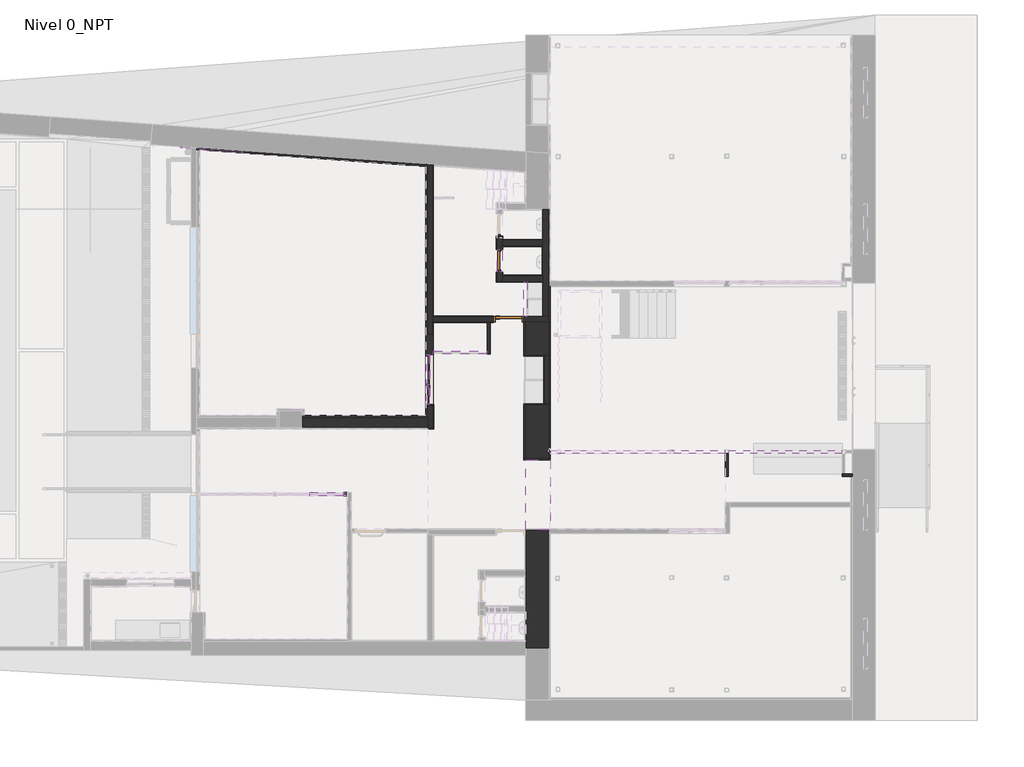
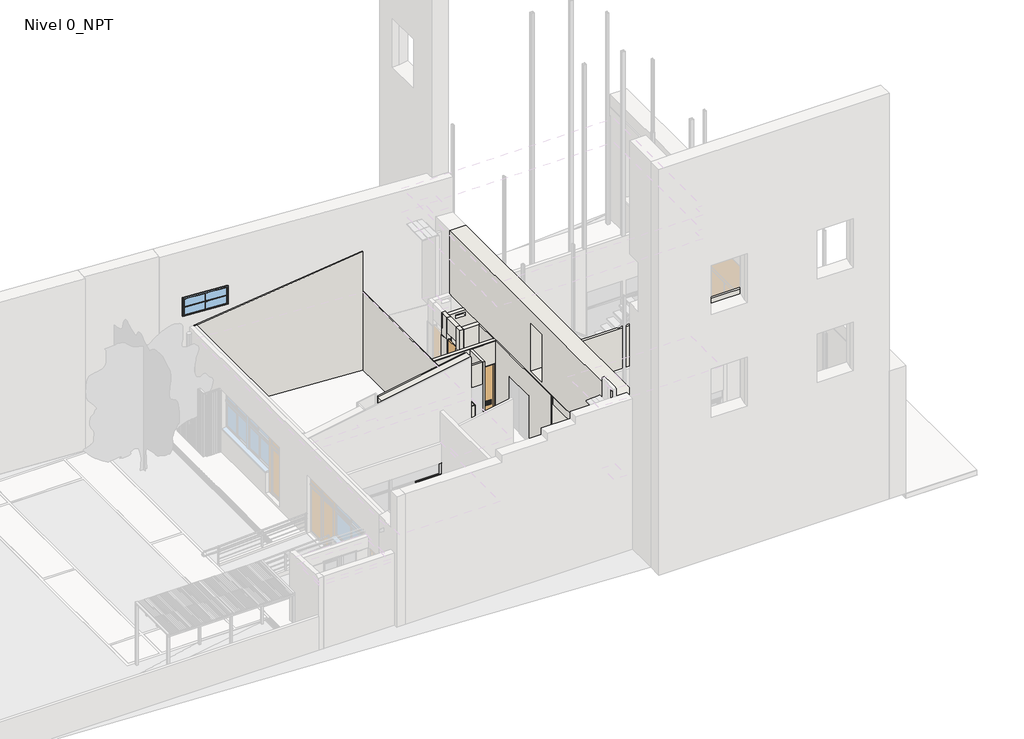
# One storey, part 3 of 10: 47 walls, 12 members, 3 plates, 2 doors, 1 window.
"""IFC4 building model written with IfcOpenShell, lengths in millimetres."""

from ifc_helpers import new_model, si_unit, frame, origin, origin_with_axes, place, context, project, spatial, polyline, outline, extrude, faceted_brep, transform, mapped, element, save
from components import door_e3acdb04, arq_pu_int_alu_muro_cortina_763f2388, montante_rectangular_10x10_306b7be8, montante_rectangular_10x10_453e8bf0, montante_rectangular_10x10_ddea4786, montante_rectangular_5x10_a7036ec4, montante_rectangular_5x10_1c76f6bb, montante_rectangular_5x10_c640f651, montante_rectangular_5x5_ec66791f, montante_rectangular_5x5_64893cda, plate_42b89756, plate_2efda8e6, plate_50fcb6a3, wall_5473c17b, window_182x81_cab7739a

model = new_model("IFC4")

# Units and contexts
model_context = context("Model", 3, world=origin())
ifc_project = project(units=[si_unit("LENGTHUNIT", "METRE", prefix="MILLI")], contexts=[model_context])

# Site, building, storey
site = spatial("IfcSite", under=ifc_project)
building = spatial("IfcBuilding", under=site)
storey = spatial("IfcBuildingStorey", under=building, Name="Nivel 0_NPT", Elevation=0.0)

# Doors
placement = place(None, origin())
door_shape = door_e3acdb04(model_context)
element("IfcDoor", 1, ObjectType="ARQ-PU-INT-90x210-Mad-C3 : ARQ-PU-INT-90x210-Mad", at=placement, inside=storey, context=model_context, shape_type="MappedRepresentation", body=[
    mapped(door_shape, transform((4854.8126262, 5388.6072273, 0.0), x_axis=(1.0, 0.0, 0.0), y_axis=(0.0, 1.0, 0.0), z_axis=(0.0, 0.0, 1.0))),
])
arq_pu_int_alu_muro_cortina_shape = arq_pu_int_alu_muro_cortina_763f2388(model_context)
element("IfcDoor", 2, ObjectType="ARQ-PU-INT-Alu (muro cortina) : ARQ-PU-IN-Alu-sshh", at=placement, inside=storey, context=model_context, shape_type="MappedRepresentation", body=[
    mapped(arq_pu_int_alu_muro_cortina_shape, transform((4589.9522431, 7113.4254013, 320.0), x_axis=(0.0, -1.0, 0.0), y_axis=(1.0, 0.0, 0.0), z_axis=(0.0, 0.0, 1.0))),
])

# Members
montante_rectangular_10x10_shape = montante_rectangular_10x10_306b7be8(model_context)
element("IfcMember", 3, ObjectType="Montante rectangular : 10x10", at=placement, inside=storey, context=model_context, shape_type="MappedRepresentation", body=[
    mapped(montante_rectangular_10x10_shape, transform((106.6524575, 244.0630157, 2125.0), x_axis=(1.0, 0.0, 0.0), y_axis=(0.0, -1.0, 0.0), z_axis=(0.0, 0.0, -1.0))),
])
montante_rectangular_10x10_2_shape = montante_rectangular_10x10_453e8bf0(model_context)
element("IfcMember", 4, ObjectType="Montante rectangular : 10x10", at=placement, inside=storey, context=model_context, shape_type="MappedRepresentation", body=[
    mapped(montante_rectangular_10x10_2_shape, transform((2485.3257651, 3348.6036572, 0.0), x_axis=(0.0, 1.0, 0.0), y_axis=(1.0, 0.0, 0.0), z_axis=(0.0, 0.0, -1.0))),
])
montante_rectangular_10x10_3_shape = montante_rectangular_10x10_ddea4786(model_context)
element("IfcMember", 5, ObjectType="Montante rectangular : 10x10", at=placement, inside=storey, context=model_context, shape_type="MappedRepresentation", body=[
    mapped(montante_rectangular_10x10_3_shape, transform((106.6524575, 244.0630157, 0.0), x_axis=(1.0, 0.0, 0.0), y_axis=(0.0, -1.0, 0.0), z_axis=(0.0, 0.0, -1.0))),
])
montante_rectangular_5x10_shape = montante_rectangular_5x10_a7036ec4(model_context)
element("IfcMember", 6, ObjectType="Montante rectangular : 5x10", at=placement, inside=storey, context=model_context, shape_type="MappedRepresentation", body=[
    mapped(montante_rectangular_5x10_shape, transform((6.6524575, 244.0630157, 2125.0), x_axis=(0.0, 0.0, 1.0), y_axis=(0.0, -1.0, 0.0), z_axis=(1.0, 0.0, 0.0))),
])
montante_rectangular_5x10_2_shape = montante_rectangular_5x10_1c76f6bb(model_context)
element("IfcMember", 7, ObjectType="Montante rectangular : 5x10", at=placement, inside=storey, context=model_context, shape_type="MappedRepresentation", body=[
    mapped(montante_rectangular_5x10_2_shape, transform((2485.3257651, 3348.6036572, 2125.0), x_axis=(0.0, 0.0, 1.0), y_axis=(1.0, 0.0, 0.0), z_axis=(0.0, 1.0, 0.0))),
])
montante_rectangular_5x10_3_shape = montante_rectangular_5x10_c640f651(model_context)
element("IfcMember", 8, ObjectType="Montante rectangular : 5x10", at=placement, inside=storey, context=model_context, shape_type="MappedRepresentation", body=[
    mapped(montante_rectangular_5x10_3_shape, transform((2485.3257651, 4348.6036572, 2125.0), x_axis=(0.0, 0.0, 1.0), y_axis=(1.0, 0.0, 0.0), z_axis=(0.0, 1.0, 0.0))),
])
montante_rectangular_5x5_shape = montante_rectangular_5x5_ec66791f(model_context)
element("IfcMember", 9, ObjectType="Montante rectangular : 5x5", at=placement, inside=storey, context=model_context, shape_type="MappedRepresentation", body=[
    mapped(montante_rectangular_5x5_shape, transform((4589.9522431, 7443.2435753, 0.0), x_axis=(0.0, 1.0, 0.0), y_axis=(1.0, 0.0, 0.0), z_axis=(0.0, 0.0, -1.0))),
])
element("IfcMember", 10, ObjectType="Montante rectangular : 5x5", at=placement, inside=storey, context=model_context, shape_type="MappedRepresentation", body=[
    mapped(montante_rectangular_5x5_shape, transform((4589.9522431, 6783.6072273, 320.0), x_axis=(0.0, -1.0, 0.0), y_axis=(1.0, 0.0, 0.0), z_axis=(0.0, 0.0, 1.0))),
])
element("IfcMember", 11, ObjectType="Montante rectangular : 5x5", at=placement, inside=storey, context=model_context, shape_type="MappedRepresentation", body=[
    mapped(montante_rectangular_5x5_shape, transform((4589.8126262, 7833.6072273, 320.0), x_axis=(0.0, -1.0, 0.0), y_axis=(1.0, 0.0, 0.0), z_axis=(0.0, 0.0, 1.0))),
])
montante_rectangular_5x5_2_shape = montante_rectangular_5x5_64893cda(model_context)
element("IfcMember", 12, ObjectType="Montante rectangular : 5x5", at=placement, inside=storey, context=model_context, shape_type="MappedRepresentation", body=[
    mapped(montante_rectangular_5x5_2_shape, transform((4589.9522431, 6783.6072273, 2100.0), x_axis=(0.0, -1.0, 0.0), y_axis=(1.0, 0.0, 0.0), z_axis=(0.0, 0.0, 1.0))),
])
element("IfcMember", 13, ObjectType="Montante rectangular : 5x5", at=placement, inside=storey, context=model_context, shape_type="MappedRepresentation", body=[
    mapped(montante_rectangular_5x5_2_shape, transform((4589.8126262, 7833.6072273, 2100.0), x_axis=(0.0, -1.0, 0.0), y_axis=(1.0, 0.0, 0.0), z_axis=(0.0, 0.0, 1.0))),
])
element("IfcMember", 14, ObjectType="Montante rectangular : 5x5", at=placement, inside=storey, context=model_context, shape_type="MappedRepresentation", body=[
    mapped(montante_rectangular_5x5_2_shape, transform((4589.9522431, 7443.2435753, 320.0), x_axis=(0.0, 1.0, 0.0), y_axis=(1.0, 0.0, 0.0), z_axis=(0.0, 0.0, -1.0))),
])

# Plates
plate_shape = plate_42b89756(model_context)
element("IfcPlate", 15, ObjectType="ARQ-PA-IN-Vidrio Fijo Laminado  : ARQ-PA-IN-Vidrio Fijo Laminado ", at=placement, inside=storey, context=model_context, shape_type="MappedRepresentation", body=[
    mapped(plate_shape, transform((2485.3257651, 3115.2198615, 0.0), x_axis=(0.0, 1.0, 0.0), y_axis=(-1.0, 0.0, 0.0), z_axis=(0.0, 0.0, 1.0))),
])
plate_2_shape = plate_2efda8e6(model_context)
element("IfcPlate", 16, ObjectType="ARQ-PA-IN-Vidrio Fijo : ARQ-PA-IN-Vidrio Fijo", at=placement, inside=storey, context=model_context, shape_type="MappedRepresentation", body=[
    mapped(plate_2_shape, transform((2485.3257651, 3615.2198615, 2150.0), x_axis=(0.0, 1.0, 0.0), y_axis=(-1.0, 0.0, 0.0), z_axis=(0.0, 0.0, 1.0))),
])
plate_3_shape = plate_50fcb6a3(model_context)
element("IfcPlate", 17, ObjectType="ARQ-PA-IN-AluVid-Puerta : ARQ-PA-IN-AluVid-Puerta", at=placement, inside=storey, context=model_context, shape_type="MappedRepresentation", body=[
    mapped(plate_3_shape, transform((2485.3257651, 3898.6036572, 0.0), x_axis=(0.0, 1.0, 0.0), y_axis=(-1.0, 0.0, 0.0), z_axis=(0.0, 0.0, 1.0))),
])

# Walls
element("IfcWall", 18, ObjectType="ARQ-MU-IN-17-Gen", at=placement, inside=storey, context=model_context, shape_type="Brep", body=[
    faceted_brep([(5864.2897792, 8623.6072273, 3060.0), (5864.2897792, 8623.6072273, 2100.0), (5864.2897792, 8623.6072273, 0.0), (5864.2897792, 8603.6072273, 0.0), (5864.2897792, 7734.2992014, 0.0), (5864.2897792, 7714.2992014, 0.0), (5864.2897792, 7554.2992014, 0.0), (5864.2897792, 6663.6072273, 0.0), (5864.2897792, 6503.6072273, 0.0), (5864.2897792, 6483.6072273, 0.0), (5864.2897792, 5343.6072273, 0.0), (5864.2897792, 5343.6072273, 3060.0), (5864.2897792, 6503.6072273, 3060.0), (5864.2897792, 6663.6072273, 3060.0), (5864.2897792, 7554.2992014, 3060.0), (5864.2897792, 7714.2992014, 3060.0), (6034.2897792, 8623.6072273, 0.0), (6034.2897792, 8623.6072273, 3060.0), (6034.2897792, 5343.6072273, 3060.0), (6034.2897792, 5343.6072273, 0.0)], [[[0, 1, 2, 3, 4, 5, 6, 7, 8, 9, 10, 11, 12, 13, 14, 15]], [[16, 17, 18, 19]], [[10, 9, 8, 7, 6, 5, 4, 3, 2, 16, 19]], [[11, 10, 19, 18]], [[0, 15, 14, 13, 12, 11, 18, 17]], [[0, 17, 16, 2, 1]]]),
])
element("IfcWall", 19, ObjectType="ARQ-MU-IN-68-Gen", at=placement, inside=storey, context=model_context, shape_type="Brep", body=[
    faceted_brep([(5354.2897792, -4296.3927727, -20.0), (5354.2897792, -4296.3927727, 5840.0), (5354.2897792, 8713.6072273, 5840.0), (5354.2897792, 8713.6072273, 3060.0), (5354.2897792, 8623.6072273, 3060.0), (5354.2897792, 5313.6072273, 3060.0), (5354.2897792, 5313.6072273, -20.0), (5354.2897792, 4333.6072273, -20.0), (5354.2897792, 4333.6072273, 2100.0), (5354.2897792, 2873.6072273, 2100.0), (5354.2897792, 2873.6072273, -20.0), (5354.2897792, 1293.6072273, -20.0), (5354.2897792, 1293.6072273, 3060.0), (5354.2897792, -806.4629444, 3060.0), (5354.2897792, -806.4629444, 2100.0), (5354.2897792, -956.4629444, 2100.0), (5354.2897792, -956.4629444, 0.0), (5354.2897792, -781.4629444, 0.0), (5354.2897792, -781.4629444, -20.0), (5354.2897792, 2037.6072273, 3210.0), (5354.2897792, 2837.6072273, 3210.0), (5354.2897792, 2837.6072273, 5310.0), (5354.2897792, 2037.6072273, 5310.0), (6034.2897792, -4296.3927727, 5840.0), (6034.2897792, -4296.3927727, -20.0), (6034.2897792, -4086.3927727, -20.0), (6034.2897792, -911.4629444, -20.0), (6034.2897792, -781.4629444, -20.0), (6034.2897792, -781.4629444, 0.0), (6034.2897792, -806.4629444, 0.0), (6034.2897792, -806.4629444, 3060.0), (6034.2897792, 1293.6072273, 3060.0), (6034.2897792, 1293.6072273, -20.0), (6034.2897792, 2873.6072273, -20.0), (6034.2897792, 2873.6072273, 2100.0), (6034.2897792, 2898.6072273, 2100.0), (6034.2897792, 4308.6072273, 2100.0), (6034.2897792, 4333.6072273, 2100.0), (6034.2897792, 4333.6072273, -20.0), (6034.2897792, 5313.6072273, -20.0), (6034.2897792, 5313.6072273, 0.0), (6034.2897792, 5313.6072273, 3060.0), (6034.2897792, 5343.6072273, 3060.0), (6034.2897792, 5463.6072273, 3060.0), (6034.2897792, 8623.6072273, 3060.0), (6034.2897792, 8713.6072273, 3060.0), (6034.2897792, 8713.6072273, 5840.0), (6034.2897792, 2037.6072273, 3210.0), (6034.2897792, 2037.6072273, 5310.0), (6034.2897792, 2837.6072273, 5310.0), (6034.2897792, 2837.6072273, 3210.0), (5354.8126262, -806.4629444, 0.0), (5354.8126262, -806.4629444, 2100.0), (5354.8126262, -956.4629444, 0.0), (5354.8126262, -956.4629444, 2100.0)], [[[0, 1, 2, 3, 4, 5, 6, 7, 8, 9, 10, 11, 12, 13, 14, 15, 16, 17, 18], [19, 20, 21, 22]], [[23, 24, 25, 26, 27, 28, 29, 30, 31, 32, 33, 34, 35, 36, 37, 38, 39, 40, 41, 42, 43, 44, 45, 46], [47, 48, 49, 50]], [[1, 0, 24, 23]], [[2, 1, 23, 46]], [[13, 12, 31, 30]], [[0, 18, 27, 26, 25, 24]], [[48, 47, 19, 22]], [[49, 48, 22, 21]], [[50, 49, 21, 20]], [[47, 50, 20, 19]], [[9, 8, 37, 36, 35, 34]], [[11, 10, 33, 32]], [[5, 4, 3, 45, 44, 43, 42, 41]], [[7, 6, 39, 38]], [[27, 18, 17, 28]], [[13, 30, 29, 51, 52, 14]], [[29, 28, 17, 16, 53, 51]], [[33, 10, 9, 34]], [[54, 53, 16, 15]], [[52, 54, 15, 14]], [[53, 54, 52, 51]], [[12, 11, 32, 31]], [[5, 41, 40, 39, 6]], [[7, 38, 37, 8]], [[2, 46, 45, 3]]]),
])
element("IfcWall", 20, ObjectType="ARQ-MU-IN-16-Gen", at=placement, inside=storey, context=model_context, shape_type="Brep", body=[
    faceted_brep([(5864.2897792, 7714.2992014, 0.0), (5844.2897792, 7714.2992014, 0.0), (4664.9522431, 7714.2992014, 0.0), (4664.9522431, 7714.2992014, 3060.0), (5864.2897792, 7714.2992014, 3060.0), (5864.2897792, 7714.2992014, 2100.0), (4954.2897792, 7714.2992014, 2950.0), (4954.2897792, 7714.2992014, 2800.0), (5347.2897792, 7714.2992014, 2800.0), (5347.2897792, 7714.2992014, 2950.0), (5864.2897792, 7554.2992014, 0.0), (5864.2897792, 7554.2992014, 3060.0), (4664.9522431, 7554.2992014, 3060.0), (4664.9522431, 7554.2992014, 0.0), (4954.2897792, 7554.2992014, 2950.0), (5347.2897792, 7554.2992014, 2950.0), (5347.2897792, 7554.2992014, 2800.0), (4954.2897792, 7554.2992014, 2800.0)], [[[0, 1, 2, 3, 4, 5], [6, 7, 8, 9]], [[10, 11, 12, 13], [14, 15, 16, 17]], [[0, 5, 4, 11, 10]], [[3, 2, 13, 12]], [[2, 1, 0, 10, 13]], [[4, 3, 12, 11]], [[7, 6, 14, 17]], [[8, 7, 17, 16]], [[9, 8, 16, 15]], [[6, 9, 15, 14]]]),
])
element("IfcWall", 21, ObjectType="ARQ-MU-IN-16-Gen", at=placement, inside=storey, context=model_context, shape_type="Brep", body=[
    faceted_brep([(5864.2897792, 6663.6072273, 0.0), (4664.8126262, 6663.6072273, 0.0), (4664.8126262, 6663.6072273, 3060.0), (5864.2897792, 6663.6072273, 3060.0), (5864.2897792, 6503.6072273, 0.0), (5864.2897792, 6503.6072273, 3060.0), (5394.8126262, 6503.6072273, 3060.0), (5304.8126262, 6503.6072273, 3060.0), (4664.8126262, 6503.6072273, 3060.0), (4664.8126262, 6503.6072273, 0.0)], [[[0, 1, 2, 3]], [[4, 5, 6, 7, 8, 9]], [[1, 0, 4, 9]], [[3, 2, 8, 7, 6, 5]], [[0, 3, 5, 4]], [[2, 1, 9, 8]]]),
])
element("IfcWall", 22, ObjectType="ARQ-MU-IN-12-Gen", at=placement, inside=storey, context=model_context, shape_type="SweptSolid", body=[
    extrude(outline(polyline([(2898.6072273, 0.0), (2898.6072273, 2100.0), (2886.1072273, 2100.0), (2886.1072273, 2900.0), (4321.1072273, 2900.0), (4321.1072273, 2100.0), (4308.6072273, 2100.0), (4308.6072273, 0.0), (2898.6072273, 0.0)])), frame((5914.2897792, 0.0, 0.0), z_axis=(1.0, 0.0, 0.0), x_axis=(0.0, 1.0, 0.0)), (0.0, 0.0, 1.0), 120.0),
])
element("IfcWall", 23, ObjectType="ARQ-MU-IN-15-Gen", at=placement, inside=storey, context=model_context, shape_type="Brep", body=[
    faceted_brep([(4664.9522431, 7443.2435753, 0.0), (4664.9522431, 7554.2992014, 0.0), (4664.9522431, 7714.2992014, 0.0), (4664.9522431, 7833.6072273, 0.0), (4664.9522431, 7833.6072273, 3060.0), (4664.9522431, 7714.2992014, 3060.0), (4664.9522431, 7554.2992014, 3060.0), (4664.9522431, 7443.2435753, 3060.0), (4664.9522431, 7443.2435753, 2400.0), (4514.9522431, 7443.2435753, 0.0), (4514.9522431, 7443.2435753, 2400.0), (4514.9522431, 7443.2435753, 3060.0), (4514.9522431, 7833.6072273, 3060.0), (4514.9522431, 7833.6072273, 0.0)], [[[0, 1, 2, 3, 4, 5, 6, 7, 8]], [[9, 10, 11, 12, 13]], [[3, 2, 1, 0, 9, 13]], [[4, 3, 13, 12]], [[7, 6, 5, 4, 12, 11]], [[0, 8, 7, 11, 10, 9]]]),
])
element("IfcWall", 24, ObjectType="ARQ-MU-IN-15-Gen", at=placement, inside=storey, context=model_context, shape_type="Brep", body=[
    faceted_brep([(4664.8126262, 6503.6072273, 0.0), (4664.8126262, 6663.6072273, 0.0), (4664.8126262, 6783.6072273, 0.0), (4664.8126262, 6783.6072273, 2400.0), (4664.8126262, 6783.6072273, 3060.0), (4664.8126262, 6663.6072273, 3060.0), (4664.8126262, 6503.6072273, 3060.0), (4514.8126262, 6503.6072273, 0.0), (4514.8126262, 6503.6072273, 3060.0), (4514.8126262, 6783.6072273, 3060.0), (4514.8126262, 6783.6072273, 2400.0), (4514.8126262, 6783.6072273, 0.0)], [[[0, 1, 2, 3, 4, 5, 6]], [[7, 8, 9, 10, 11]], [[2, 1, 0, 7, 11]], [[4, 3, 2, 11, 10, 9]], [[6, 5, 4, 9, 8]], [[0, 6, 8, 7]]]),
])
element("IfcWall", 25, ObjectType="ARQ-MU-IN-15-Gen", at=placement, inside=storey, context=model_context, shape_type="Brep", body=[
    faceted_brep([(2624.8126262, 2204.5844917, -20.0), (2624.8126262, 2832.5360658, -20.0), (2624.8126262, 2832.5360658, 3060.0), (2624.8126262, 2204.5844917, 3060.0), (2474.8126262, 2204.5844917, -20.0), (2474.8126262, 2204.5844917, 3060.0), (2474.8126262, 2832.5360658, 3060.0), (2474.8126262, 2832.5360658, -20.0), (2474.8126262, 2504.5844917, -20.0)], [[[0, 1, 2, 3]], [[4, 5, 6, 7, 8]], [[2, 1, 7, 6]], [[0, 3, 5, 4]], [[1, 0, 4, 8, 7]], [[3, 2, 6, 5]]]),
])
element("IfcWall", 26, ObjectType="ARQ-MU-IN-9-Ye-T2", at=placement, inside=storey, context=model_context, shape_type="SweptSolid", body=[
    extrude(outline(polyline([(-1.3913714, 2100.0), (-1.3913714, 4910.0), (1434.6072273, 4910.0), (1434.6072273, -20.0), (762.2485055, -20.0), (762.2485055, 2100.0), (-1.3913714, 2100.0)])), frame((11223.8493091, 0.0, 0.0), z_axis=(1.0, 0.0, 0.0), x_axis=(0.0, 1.0, 0.0)), (0.0, 0.0, 1.0), 90.0),
])
element("IfcWall", 27, ObjectType="ARQ-MU-IN-8-Ye-T3", at=placement, inside=storey, context=model_context, shape_type="Brep", body=[
    faceted_brep([(14664.854766, 762.2485055, -20.0), (14914.8126262, 762.2485055, -20.0), (14964.8126262, 762.2485055, -20.0), (14964.8126262, 762.2485055, 4910.0), (14914.8126262, 762.2485055, 4910.0), (14664.854766, 762.2485055, 4910.0), (14664.854766, 842.2485055, -20.0), (14664.854766, 842.2485055, 4910.0), (14744.854766, 842.2485055, 4910.0), (14964.8126262, 842.2485055, 4910.0), (14964.8126262, 842.2485055, -20.0), (14744.854766, 842.2485055, -20.0)], [[[0, 1, 2, 3, 4, 5]], [[6, 7, 8, 9, 10, 11]], [[2, 1, 0, 6, 11, 10]], [[5, 4, 3, 9, 8, 7]], [[0, 5, 7, 6]], [[3, 2, 10, 9]]]),
])
element("IfcWall", 28, ObjectType="ARQ-MU-IN-15-Gen", at=placement, inside=storey, context=model_context, shape_type="Brep", body=[
    faceted_brep([(2617.4067247, 4934.5844917, 3060.0), (2617.4067247, 4934.5844917, -20.0), (2617.4067247, 9923.5663252, -20.0), (2617.4067247, 9923.5663252, 3060.0), (2617.4067247, 5463.6072273, 3060.0), (2617.4067247, 5313.6072273, 3060.0), (2467.4067247, 4934.5844917, -20.0), (2467.4067247, 4934.5844917, 3060.0), (2467.4067247, 9934.5471134, 3060.0), (2467.4067247, 9934.5471134, -20.0)], [[[0, 1, 2, 3, 4, 5]], [[6, 7, 8, 9]], [[2, 1, 6, 9]], [[0, 5, 4, 3, 8, 7]], [[3, 2, 9, 8]], [[0, 7, 6, 1]]]),
])
element("IfcWall", 29, ObjectType="ARQ-MU-IN-9-Ye-T2", at=placement, inside=storey, context=model_context, shape_type="Brep", body=[
    faceted_brep([(4227.4067247, 5288.6072273, -20.0), (4227.4067247, 4371.6072273, -20.0), (4227.4067247, 4371.6072273, 2100.0), (4227.4067247, 4371.6072273, 3060.0), (4227.4067247, 4461.6072273, 3060.0), (4227.4067247, 5288.6072273, 3060.0), (4317.4067247, 5288.6072273, -20.0), (4317.4067247, 5288.6072273, 3060.0), (4317.4067247, 4371.6072273, 3060.0), (4317.4067247, 4371.6072273, -20.0)], [[[0, 1, 2, 3, 4, 5]], [[6, 7, 8, 9]], [[1, 0, 6, 9]], [[5, 4, 3, 8, 7]], [[0, 5, 7, 6]], [[3, 2, 1, 9, 8]]]),
])
element("IfcWall", 30, ObjectType="ARQ-MU-IN-22-Ye-T5", at=placement, inside=storey, context=model_context, shape_type="Brep", body=[
    faceted_brep([(2417.4067247, 4934.5844917, -20.0), (2417.4067247, 2882.5360658, -20.0), (2417.4067247, 2882.5360658, 0.0), (2417.4067247, 4348.6036572, 0.0), (2417.4067247, 4348.6036572, 2600.0), (2417.4067247, 2882.5360658, 2600.0), (2417.4067247, 2882.5360658, 3060.0), (2417.4067247, 4934.5844917, 3060.0), (2637.4067247, 2882.5360658, -20.0), (2637.4067247, 4934.5844917, -20.0), (2637.4067247, 4934.5844917, 3060.0), (2637.4067247, 4461.6072273, 3060.0), (2637.4067247, 4371.6072273, 3060.0), (2637.4067247, 2882.5360658, 3060.0), (2637.4067247, 2882.5360658, 2600.0), (2637.4067247, 4348.6036572, 2600.0), (2637.4067247, 4348.6036572, 0.0), (2637.4067247, 2882.5360658, 0.0), (2467.4067247, 4934.5844917, -20.0), (2617.4067247, 4934.5844917, -20.0), (2624.8126262, 2882.5360658, -20.0), (2467.4067247, 2882.5360658, 3060.0), (2624.8126262, 2882.5360658, 3060.0), (2617.4067247, 4934.5844917, 3060.0), (2467.4067247, 4934.5844917, 3060.0)], [[[0, 1, 2, 3, 4, 5, 6, 7]], [[8, 9, 10, 11, 12, 13, 14, 15, 16, 17]], [[1, 0, 18, 19, 9, 8, 20]], [[7, 6, 21, 22, 13, 12, 11, 10, 23, 24]], [[4, 15, 14, 5]], [[3, 16, 15, 4]], [[16, 3, 2, 17]], [[1, 20, 8, 17, 2]], [[6, 5, 14, 13, 22, 21]], [[0, 7, 24, 23, 10, 9, 19, 18]]]),
])
element("IfcWall", 31, ObjectType="ARQ-RE-IN-5-Ye-M2", at=placement, inside=storey, context=model_context, shape_type="Brep", body=[
    faceted_brep([(2467.4067247, 2554.5844917, -20.0), (2467.4067247, 2832.5360658, -20.0), (2467.4067247, 2832.5360658, 3060.0), (2467.4067247, 4934.5844917, 3060.0), (2467.4067247, 4934.5844917, -20.0), (2467.4067247, 9934.5471134, -20.0), (2467.4067247, 9934.5471134, 3450.0), (2467.4067247, 2554.5844917, 3450.0), (2417.4067247, 2832.5360658, -20.0), (2417.4067247, 2554.5844917, -20.0), (2417.4067247, 2554.5844917, 3450.0), (2417.4067247, 9938.2073761, 3450.0), (2417.4067247, 9938.2073761, -20.0), (2417.4067247, 9888.0735799, -20.0), (2417.4067247, 4934.5844917, -20.0), (2417.4067247, 4934.5844917, 3060.0), (2417.4067247, 2882.5360658, 3060.0), (2417.4067247, 2832.5360658, 3060.0)], [[[0, 1, 2, 3, 4, 5, 6, 7]], [[8, 9, 10, 11, 12, 13, 14, 15, 16, 17]], [[6, 5, 12, 11]], [[0, 7, 10, 9]], [[1, 0, 9, 8]], [[7, 6, 11, 10]], [[3, 2, 17, 16, 15]], [[5, 4, 14, 13, 12]], [[2, 1, 8, 17]], [[3, 15, 14, 4]]]),
])
element("IfcWall", 32, ObjectType="ARQ-RE-IN-5-Ye-M2", at=placement, inside=storey, context=model_context, shape_type="Brep", body=[
    faceted_brep([(2417.4067247, 9938.2073761, -20.0), (-4335.1873738, 10432.532743, -20.0), (-4335.1873738, 10432.532743, 4011.0), (2417.4067247, 9938.2073761, 5226.4669377), (2417.4067247, 9938.2073761, 3450.0), (2417.4067247, 9888.0735799, -20.0), (2417.4067247, 9888.0735799, 5226.4669377), (-4235.1873738, 10375.0784214, 4029.0), (-4335.1873738, 10382.3989468, 4011.0), (-4335.1873738, 10382.3989468, -20.0), (-4235.1873738, 10375.0784214, -20.0)], [[[0, 1, 2, 3, 4]], [[5, 6, 7, 8, 9, 10]], [[1, 0, 5, 10, 9]], [[0, 4, 3, 6, 5]], [[2, 1, 9, 8]], [[3, 2, 8, 7, 6]]]),
])
element("IfcWall", 33, ObjectType="ARQ-RE-IN-5-Ye-M2", at=placement, inside=storey, context=model_context, shape_type="Brep", body=[
    faceted_brep([(2624.8126262, 2882.5360658, -20.0), (2417.4067247, 2882.5360658, -20.0), (2417.4067247, 2882.5360658, 0.0), (2417.4067247, 2882.5360658, 2600.0), (2417.4067247, 2882.5360658, 3060.0), (2624.8126262, 2882.5360658, 3060.0), (2624.8126262, 2832.5360658, -20.0), (2624.8126262, 2832.5360658, 3060.0), (2474.8126262, 2832.5360658, 3060.0), (2467.4067247, 2832.5360658, 3060.0), (2417.4067247, 2832.5360658, 3060.0), (2417.4067247, 2832.5360658, -20.0), (2467.4067247, 2832.5360658, -20.0), (2474.8126262, 2832.5360658, -20.0)], [[[0, 1, 2, 3, 4, 5]], [[6, 7, 8, 9, 10, 11, 12, 13]], [[1, 0, 6, 13, 12, 11]], [[5, 4, 10, 9, 8, 7]], [[0, 5, 7, 6]], [[4, 3, 2, 1, 11, 10]]]),
])
element("IfcWall", 34, ObjectType="ARQ-RE-IN-5-Ye-M2", at=placement, inside=storey, context=model_context, shape_type="Brep", body=[
    faceted_brep([(2467.4067247, 2554.5844917, -20.0), (2417.4067247, 2554.5844917, -20.0), (-1165.1747062, 2554.5844917, -20.0), (-1215.1747062, 2554.5844917, -20.0), (-1215.1747062, 2554.5844917, 4572.6022802), (-1165.1747062, 2554.5844917, 4581.6022802), (2424.8126262, 2554.5844917, 5227.8), (2424.8126262, 2554.5844917, 3462.0), (2467.4067247, 2554.5844917, 3462.0), (2467.4067247, 2554.5844917, 3450.0), (-1215.1747062, 2504.5844917, -20.0), (2467.4067247, 2504.5844917, -20.0), (2467.4067247, 2504.5844917, 3462.0), (2424.8126262, 2504.5844917, 3462.0), (2424.8126262, 2504.5844917, 5227.8), (-1215.1747062, 2504.5844917, 4572.6022802)], [[[0, 1, 2, 3, 4, 5, 6, 7, 8, 9]], [[10, 11, 12, 13, 14, 15]], [[3, 2, 1, 0, 11, 10]], [[4, 15, 14, 6, 5]], [[13, 7, 6, 14]], [[7, 13, 12, 8]], [[4, 3, 10, 15]], [[11, 0, 9, 8, 12]]]),
])
element("IfcWall", 35, ObjectType="ARQ-RE-IN-5-Ye-M2", at=placement, inside=storey, context=model_context, shape_type="Brep", body=[
    faceted_brep([(5304.2897792, 5313.6072273, -20.0), (5304.2897792, 4308.6072273, -20.0), (5304.2897792, 4308.6072273, 2100.0), (5304.2897792, 2898.6072273, 2100.0), (5304.2897792, 2898.6072273, -20.0), (5304.2897792, 1293.6072273, -20.0), (5304.2897792, 1293.6072273, 3060.0), (5304.2897792, 5288.6072273, 3060.0), (5304.2897792, 5313.6072273, 3060.0), (5304.2897792, 5313.6072273, 2100.0), (5354.2897792, 5313.6072273, -20.0), (5354.2897792, 5313.6072273, 3060.0), (5354.2897792, 1293.6072273, 3060.0), (5354.2897792, 1293.6072273, -20.0), (5354.2897792, 2873.6072273, -20.0), (5354.2897792, 2898.6072273, -20.0), (5354.2897792, 2898.6072273, 2100.0), (5354.2897792, 4308.6072273, 2100.0), (5354.2897792, 4308.6072273, -20.0), (5354.2897792, 4333.6072273, -20.0)], [[[0, 1, 2, 3, 4, 5, 6, 7, 8, 9]], [[10, 11, 12, 13, 14, 15, 16, 17, 18, 19]], [[0, 9, 8, 11, 10]], [[1, 0, 10, 19, 18]], [[8, 7, 6, 12, 11]], [[3, 2, 17, 16]], [[5, 4, 15, 14, 13]], [[6, 5, 13, 12]], [[4, 3, 16, 15]], [[2, 1, 18, 17]]]),
])
element("IfcWall", 36, ObjectType="ARQ-RE-IN-5-Ye-M2", at=placement, inside=storey, context=model_context, shape_type="Brep", body=[
    faceted_brep([(5304.2897792, 1243.6072273, -20.0), (6034.2897792, 1243.6072273, -20.0), (6034.2897792, 1243.6072273, 3060.0), (5304.2897792, 1243.6072273, 3060.0), (5304.2897792, 1293.6072273, -20.0), (5304.2897792, 1293.6072273, 3060.0), (5354.2897792, 1293.6072273, 3060.0), (6034.2897792, 1293.6072273, 3060.0), (6034.2897792, 1293.6072273, -20.0), (5354.2897792, 1293.6072273, -20.0)], [[[0, 1, 2, 3]], [[4, 5, 6, 7, 8, 9]], [[2, 1, 8, 7]], [[1, 0, 4, 9, 8]], [[3, 2, 7, 6, 5]], [[0, 3, 5, 4]]]),
])
element("IfcWall", 37, ObjectType="ARQ-RE-IN-5-Ye-M2", at=placement, inside=storey, context=model_context, shape_type="Brep", body=[
    faceted_brep([(6084.2897792, -781.4629444, 3060.0), (6084.2897792, 1243.6072273, 3060.0), (6084.2897792, 1243.6072273, -20.0), (6084.2897792, 6355.6072273, -20.0), (6084.2897792, 6355.6072273, 4910.0), (6084.2897792, 2837.6072273, 4910.0), (6084.2897792, 2837.6072273, 3210.0), (6084.2897792, 2037.6072273, 3210.0), (6084.2897792, 2037.6072273, 4910.0), (6084.2897792, 1529.5940615, 4910.0), (6084.2897792, 1439.5940615, 4910.0), (6084.2897792, -781.4629444, 4910.0), (6034.2897792, -781.4629444, 3060.0), (6034.2897792, -781.4629444, 4910.0), (6034.2897792, 2037.6072273, 4910.0), (6034.2897792, 2037.6072273, 3210.0), (6034.2897792, 2837.6072273, 3210.0), (6034.2897792, 2837.6072273, 4910.0), (6034.2897792, 6355.6072273, 4910.0), (6034.2897792, 6355.6072273, -20.0), (6034.2897792, 1293.6072273, -20.0), (6034.2897792, 1243.6072273, -20.0), (6034.2897792, 1243.6072273, 3060.0)], [[[0, 1, 2, 3, 4, 5, 6, 7, 8, 9, 10, 11]], [[12, 13, 14, 15, 16, 17, 18, 19, 20, 21, 22]], [[4, 3, 19, 18]], [[0, 11, 13, 12]], [[3, 2, 21, 20, 19]], [[5, 4, 18, 17]], [[1, 0, 12, 22]], [[2, 1, 22, 21]], [[6, 5, 17, 16]], [[7, 6, 16, 15]], [[8, 7, 15, 14]], [[11, 10, 9, 8, 14, 13]]]),
])
element("IfcWall", 38, ObjectType="ARQ-RE-IN-2-Ye-M4", at=placement, inside=storey, context=model_context, shape_type="Brep", body=[
    faceted_brep([(2649.8126262, 2154.5844917, -20.0), (2649.8126262, 2882.5360658, -20.0), (2649.8126262, 2882.5360658, 2600.0), (2649.8126262, 4348.6036572, 2600.0), (2649.8126262, 4348.6036572, 3060.0), (2649.8126262, 2154.5844917, 3060.0), (2624.8126262, 2154.5844917, -20.0), (2624.8126262, 2154.5844917, 3060.0), (2624.8126262, 2204.5844917, 3060.0), (2624.8126262, 4348.6036572, 3060.0), (2624.8126262, 4348.6036572, 2600.0), (2624.8126262, 2882.5360658, 2600.0), (2624.8126262, 2882.5360658, -20.0), (2624.8126262, 2204.5844917, -20.0)], [[[0, 1, 2, 3, 4, 5]], [[6, 7, 8, 9, 10, 11, 12, 13]], [[0, 5, 7, 6]], [[1, 0, 6, 13, 12]], [[4, 3, 10, 9]], [[5, 4, 9, 8, 7]], [[2, 1, 12, 11]], [[3, 2, 11, 10]]]),
])
element("IfcWall", 39, ObjectType="ARQ-RE-IN-2-Ye-M4", at=placement, inside=storey, context=model_context, shape_type="Brep", body=[
    faceted_brep([(5304.2897792, 5313.6072273, 2100.0), (4404.8126262, 5313.6072273, 2100.0), (4404.8126262, 5313.6072273, -20.0), (2617.4067247, 5313.6072273, -20.0), (2617.4067247, 5313.6072273, 3060.0), (5304.2897792, 5313.6072273, 3060.0), (5304.2897792, 5288.6072273, 2100.0), (5304.2897792, 5288.6072273, 3060.0), (4317.4067247, 5288.6072273, 3060.0), (4227.4067247, 5288.6072273, 3060.0), (2617.4067247, 5288.6072273, 3060.0), (2617.4067247, 5288.6072273, 2080.0), (2617.4067247, 5288.6072273, -20.0), (2637.4067247, 5288.6072273, -20.0), (4227.4067247, 5288.6072273, -20.0), (4317.4067247, 5288.6072273, -20.0), (4404.8126262, 5288.6072273, -20.0), (4404.8126262, 5288.6072273, 2100.0)], [[[0, 1, 2, 3, 4, 5]], [[6, 7, 8, 9, 10, 11, 12, 13, 14, 15, 16, 17]], [[0, 5, 7, 6]], [[3, 2, 16, 15, 14, 13, 12]], [[5, 4, 10, 9, 8, 7]], [[1, 0, 6, 17]], [[2, 1, 17, 16]], [[4, 3, 12, 11, 10]]]),
])
element("IfcWall", 40, ObjectType="ARQ-MU-IN-15-Gen", at=placement, inside=storey, context=model_context, shape_type="Brep", body=[
    faceted_brep([(6034.2897792, 5313.6072273, 3060.0), (5354.2897792, 5313.6072273, 3060.0), (2617.4067247, 5313.6072273, 3060.0), (2617.4067247, 5313.6072273, 0.0), (4404.8126262, 5313.6072273, 0.0), (4404.8126262, 5313.6072273, 2100.0), (5304.8126262, 5313.6072273, 2100.0), (5304.8126262, 5313.6072273, 0.0), (6034.2897792, 5313.6072273, 0.0), (2617.4067247, 5463.6072273, 3060.0), (5304.8126262, 5463.6072273, 3060.0), (5394.8126262, 5463.6072273, 3060.0), (6034.2897792, 5463.6072273, 3060.0), (6034.2897792, 5463.6072273, 0.0), (5304.8126262, 5463.6072273, 0.0), (5304.8126262, 5463.6072273, 2100.0), (4404.8126262, 5463.6072273, 2100.0), (4404.8126262, 5463.6072273, 0.0), (2617.4067247, 5463.6072273, 0.0)], [[[0, 1, 2, 3, 4, 5, 6, 7, 8]], [[9, 10, 11, 12, 13, 14, 15, 16, 17, 18]], [[13, 8, 7, 14]], [[3, 18, 17, 4]], [[2, 1, 0, 12, 11, 10, 9]], [[8, 13, 12, 0]], [[3, 2, 9, 18]], [[16, 5, 4, 17]], [[5, 16, 15, 6]], [[6, 15, 14, 7]]]),
])
element("IfcWall", 41, ObjectType="ARQ-RE-IN-2-Ye-M4", at=placement, inside=storey, context=model_context, shape_type="SweptSolid", body=[
    extrude(outline(polyline([(4308.6072273, 2100.0), (4308.6072273, -20.0), (2898.6072273, -20.0), (2898.6072273, 2100.0), (2886.1072273, 2100.0), (2886.1072273, 2900.0), (4321.1072273, 2900.0), (4321.1072273, 2100.0), (4308.6072273, 2100.0)])), frame((5889.2897792, 0.0, 0.0), z_axis=(1.0, 0.0, 0.0), x_axis=(0.0, 1.0, 0.0)), (0.0, 0.0, 1.0), 25.0),
])
element("IfcWall", 42, ObjectType="ARQ-RE-IN-2-Ye-M4", at=placement, inside=storey, context=model_context, shape_type="Brep", body=[
    faceted_brep([(6034.2897792, 2898.6072273, 2100.0), (6034.2897792, 2898.6072273, 0.0), (6034.2897792, 2898.6072273, -20.0), (5914.2897792, 2898.6072273, -20.0), (5889.2897792, 2898.6072273, -20.0), (5354.2897792, 2898.6072273, -20.0), (5354.2897792, 2898.6072273, 2100.0), (5889.2897792, 2898.6072273, 2100.0), (5914.2897792, 2898.6072273, 2100.0), (6034.2897792, 2873.6072273, -20.0), (6034.2897792, 2873.6072273, 2100.0), (5354.2897792, 2873.6072273, 2100.0), (5354.2897792, 2873.6072273, -20.0), (6034.2897792, 2886.1072273, 2100.0)], [[[0, 1, 2, 3, 4, 5, 6, 7, 8]], [[9, 10, 11, 12]], [[5, 4, 3, 2, 9, 12]], [[0, 8, 7, 6, 11, 10, 13]], [[0, 13, 10, 9, 2, 1]], [[6, 5, 12, 11]]]),
])
element("IfcWall", 43, ObjectType="ARQ-RE-IN-2-Ye-M4", at=placement, inside=storey, context=model_context, shape_type="Brep", body=[
    faceted_brep([(6034.2897792, 4333.6072273, 2100.0), (6034.2897792, 4333.6072273, -20.0), (5354.2897792, 4333.6072273, -20.0), (5354.2897792, 4333.6072273, 2100.0), (6034.2897792, 4308.6072273, -20.0), (6034.2897792, 4308.6072273, 0.0), (6034.2897792, 4308.6072273, 2100.0), (5914.2897792, 4308.6072273, 2100.0), (5889.2897792, 4308.6072273, 2100.0), (5354.2897792, 4308.6072273, 2100.0), (5354.2897792, 4308.6072273, -20.0), (5889.2897792, 4308.6072273, -20.0), (5914.2897792, 4308.6072273, -20.0), (6034.2897792, 4321.1072273, 2100.0)], [[[0, 1, 2, 3]], [[4, 5, 6, 7, 8, 9, 10, 11, 12]], [[2, 1, 4, 12, 11, 10]], [[0, 3, 9, 8, 7, 6, 13]], [[3, 2, 10, 9]], [[0, 13, 6, 5, 4, 1]]]),
])
element("IfcWall", 44, ObjectType="ARQ-RE-IN-5-Ye-M2", at=placement, inside=storey, context=model_context, shape_type="SweptSolid", body=[
    extrude(outline(polyline([(2624.8126262, 2154.5844917), (2474.8126262, 2154.5844917), (2474.8126262, 2204.5844917), (2624.8126262, 2204.5844917), (2624.8126262, 2154.5844917)])), frame((0.0, 0.0, -20.0), z_axis=(0.0, 0.0, 1.0), x_axis=(1.0, 0.0, 0.0)), (0.0, 0.0, 1.0), 3080.0),
])
element("IfcWall", 45, ObjectType="ARQ-MU-IN-9-Ye-T2", at=placement, inside=storey, context=model_context, shape_type="SweptSolid", body=[
    extrude(outline(polyline([(14654.8707806, 1439.5940615), (11333.8126262, 1439.5940615), (11333.8126262, 1529.5940615), (14654.8707806, 1529.5940615), (14654.8707806, 1439.5940615)])), frame((0.0, 0.0, 2100.0), z_axis=(0.0, 0.0, 1.0), x_axis=(1.0, 0.0, 0.0)), (0.0, 0.0, 1.0), 2810.0),
])
element("IfcWall", 46, ObjectType="ARQ-MU-IN-9-Ye-T2", at=placement, inside=storey, context=model_context, shape_type="SweptSolid", body=[
    extrude(outline(polyline([(2637.4067247, 4461.6072273), (4227.4067247, 4461.6072273), (4227.4067247, 4371.6072273), (2637.4067247, 4371.6072273), (2637.4067247, 4461.6072273)])), frame((0.0, 0.0, 2100.0), z_axis=(0.0, 0.0, 1.0), x_axis=(1.0, 0.0, 0.0)), (0.0, 0.0, 1.0), 960.0),
])
element("IfcWall", 47, ObjectType="ARQ-MU-IN-9-Ye-T2", at=placement, inside=storey, context=model_context, shape_type="SweptSolid", body=[
    extrude(outline(polyline([(5394.8126262, 6503.6072273), (5394.8126262, 5463.6072273), (5304.8126262, 5463.6072273), (5304.8126262, 6503.6072273), (5394.8126262, 6503.6072273)])), frame((0.0, 0.0, 2100.0), z_axis=(0.0, 0.0, 1.0), x_axis=(1.0, 0.0, 0.0)), (0.0, 0.0, 1.0), 960.0),
])
element("IfcWall", 48, ObjectType="ARQ-RE-IN-2-Cer", at=placement, inside=storey, context=model_context, shape_type="Brep", body=[
    faceted_brep([(2637.4067247, 5463.6072273, -20.0), (2637.4067247, 5483.6072273, -20.0), (2637.4067247, 9902.0487017, -20.0), (2637.4067247, 9922.1022202, -20.0), (2637.4067247, 9922.1022202, 2080.0), (2637.4067247, 9902.0487017, 2080.0), (2637.4067247, 5483.6072273, 2080.0), (2637.4067247, 5463.6072273, 2080.0), (2617.4067247, 5463.6072273, -20.0), (2617.4067247, 5463.6072273, 2080.0), (2617.4067247, 9923.5663252, 2080.0), (2617.4067247, 9923.5663252, -20.0)], [[[0, 1, 2, 3, 4, 5, 6, 7]], [[8, 9, 10, 11]], [[3, 2, 1, 0, 8, 11]], [[7, 6, 5, 4, 10, 9]], [[4, 3, 11, 10]], [[0, 7, 9, 8]]]),
])
element("IfcWall", 49, ObjectType="ARQ-RE-IN-2-Cer", at=placement, inside=storey, context=model_context, shape_type="SweptSolid", body=[
    extrude(outline(polyline([(4404.8126262, 5463.6072273), (2637.4067247, 5463.6072273), (2637.4067247, 5483.6072273), (4404.8126262, 5483.6072273), (4404.8126262, 5463.6072273)])), frame((0.0, 0.0, -20.0), z_axis=(0.0, 0.0, 1.0), x_axis=(1.0, 0.0, 0.0)), (0.0, 0.0, 1.0), 2100.0),
])
element("IfcWall", 50, ObjectType="ARQ-MU-IN-30-Gen", at=placement, inside=storey, context=model_context, shape_type="Brep", body=[
    faceted_brep([(-1223.9806077, 2204.5844917, -20.0), (2474.8126262, 2204.5844917, -20.0), (2474.8126262, 2204.5844917, 3060.0), (2474.8126262, 2204.5844917, 5236.8), (-1223.9806077, 2204.5844917, 4571.0172179), (-1223.9806077, 2504.5844917, -20.0), (-1223.9806077, 2504.5844917, 4571.0172179), (2424.8126262, 2504.5844917, 5227.8), (2474.8126262, 2504.5844917, 5236.8), (2474.8126262, 2504.5844917, 3462.0), (2474.8126262, 2504.5844917, -20.0)], [[[0, 1, 2, 3, 4]], [[5, 6, 7, 8, 9, 10]], [[3, 2, 1, 10, 9, 8]], [[4, 3, 8, 7, 6]], [[1, 0, 5, 10]], [[0, 4, 6, 5]]]),
])
element("IfcWall", 51, ObjectType="ARQ-RE-IN-2-Cer", at=placement, inside=storey, context=model_context, shape_type="SweptSolid", body=[
    extrude(outline(polyline([(2617.4067247, 4934.5844917), (2617.4067247, 5288.6072273), (2637.4067247, 5288.6072273), (2637.4067247, 4934.5844917), (2617.4067247, 4934.5844917)])), frame((0.0, 0.0, -20.0), z_axis=(0.0, 0.0, 1.0), x_axis=(1.0, 0.0, 0.0)), (0.0, 0.0, 1.0), 2100.0),
])
element("IfcWall", 52, ObjectType="ARQ-MU-IN-9-Ye-T2", at=placement, inside=storey, context=model_context, shape_type="SweptSolid", body=[
    extrude(outline(polyline([(6084.2897792, 1529.5940615), (11213.8126262, 1529.5940615), (11213.8126262, 1439.5940615), (6084.2897792, 1439.5940615), (6084.2897792, 1529.5940615)])), frame((0.0, 0.0, 3000.0), z_axis=(0.0, 0.0, 1.0), x_axis=(1.0, 0.0, 0.0)), (0.0, 0.0, 1.0), 1910.0),
])
element("IfcWall", 53, ObjectType="ARQ-MU-IN-15-Gen", at=placement, inside=storey, context=model_context, shape_type="SweptSolid", body=[
    extrude(outline(polyline([(4664.9522431, 7443.2435753), (4664.9522431, 6783.6072273), (4514.9522431, 6783.6072273), (4514.9522431, 7443.2435753), (4664.9522431, 7443.2435753)])), frame((0.0, 0.0, 2400.0), z_axis=(0.0, 0.0, 1.0), x_axis=(1.0, 0.0, 0.0)), (0.0, 0.0, 1.0), 660.0),
])
element("IfcWall", 54, ObjectType="ARQ-RE-IN-2-Cer", at=placement, inside=storey, context=model_context, shape_type="Brep", body=[
    faceted_brep([(5864.2897792, 7734.2992014, 0.0), (4684.9522431, 7734.2992014, 0.0), (4664.9522431, 7734.2992014, 0.0), (4664.9522431, 7734.2992014, 2100.0), (4684.9522431, 7734.2992014, 2100.0), (5864.2897792, 7734.2992014, 2100.0), (5864.2897792, 7714.2992014, 0.0), (5864.2897792, 7714.2992014, 2100.0), (4664.9522431, 7714.2992014, 2100.0), (4664.9522431, 7714.2992014, 0.0)], [[[0, 1, 2, 3, 4, 5]], [[6, 7, 8, 9]], [[2, 1, 0, 6, 9]], [[5, 4, 3, 8, 7]], [[0, 5, 7, 6]], [[3, 2, 9, 8]]]),
])
element("IfcWall", 55, ObjectType="ARQ-RE-IN-2-Cer", at=placement, inside=storey, context=model_context, shape_type="SweptSolid", body=[
    extrude(outline(polyline([(4684.9522431, 7833.6072273), (4684.9522431, 7734.2992014), (4664.9522431, 7734.2992014), (4664.9522431, 7833.6072273), (4684.9522431, 7833.6072273)])), origin_with_axes(), (0.0, 0.0, 1.0), 2100.0),
])
element("IfcWall", 56, ObjectType="ARQ-RE-IN-2-Cer", at=placement, inside=storey, context=model_context, shape_type="SweptSolid", body=[
    extrude(outline(polyline([(4494.9522431, 7443.2435753), (4494.9522431, 7833.6072273), (4514.9522431, 7833.6072273), (4514.9522431, 7443.2435753), (4494.9522431, 7443.2435753)])), origin_with_axes(), (0.0, 0.0, 1.0), 2100.0),
])
element("IfcWall", 57, ObjectType="ARQ-RE-IN-2-Cer", at=placement, inside=storey, context=model_context, shape_type="Brep", body=[
    faceted_brep([(4684.9522431, 7443.2435753, 0.0), (4684.9522431, 7534.2992014, 0.0), (4684.9522431, 7554.2992014, 0.0), (4684.9522431, 7554.2992014, 2100.0), (4684.9522431, 7534.2992014, 2100.0), (4684.9522431, 7443.2435753, 2100.0), (4664.9522431, 7443.2435753, 0.0), (4664.9522431, 7443.2435753, 2100.0), (4664.9522431, 7554.2992014, 2100.0), (4664.9522431, 7554.2992014, 0.0)], [[[0, 1, 2, 3, 4, 5]], [[6, 7, 8, 9]], [[2, 1, 0, 6, 9]], [[5, 4, 3, 8, 7]], [[0, 5, 7, 6]], [[3, 2, 9, 8]]]),
])
element("IfcWall", 58, ObjectType="ARQ-RE-IN-2-Cer", at=placement, inside=storey, context=model_context, shape_type="Brep", body=[
    faceted_brep([(4684.9522431, 7534.2992014, 0.0), (5844.2897792, 7534.2992014, 0.0), (5864.2897792, 7534.2992014, 0.0), (5864.2897792, 7534.2992014, 2100.0), (5844.2897792, 7534.2992014, 2100.0), (4684.9522431, 7534.2992014, 2100.0), (4684.9522431, 7554.2992014, 0.0), (4684.9522431, 7554.2992014, 2100.0), (5864.2897792, 7554.2992014, 2100.0), (5864.2897792, 7554.2992014, 0.0)], [[[0, 1, 2, 3, 4, 5]], [[6, 7, 8, 9]], [[2, 1, 0, 6, 9]], [[5, 4, 3, 8, 7]], [[0, 5, 7, 6]], [[3, 2, 9, 8]]]),
])
element("IfcWall", 59, ObjectType="ARQ-RE-IN-2-Cer", at=placement, inside=storey, context=model_context, shape_type="Brep", body=[
    faceted_brep([(5844.2897792, 7534.2992014, 0.0), (5844.2897792, 6683.6072273, 0.0), (5844.2897792, 6663.6072273, 0.0), (5844.2897792, 6663.6072273, 2100.0), (5844.2897792, 6683.6072273, 2100.0), (5844.2897792, 7534.2992014, 2100.0), (5864.2897792, 7534.2992014, 0.0), (5864.2897792, 7534.2992014, 2100.0), (5864.2897792, 6663.6072273, 2100.0), (5864.2897792, 6663.6072273, 0.0)], [[[0, 1, 2, 3, 4, 5]], [[6, 7, 8, 9]], [[2, 1, 0, 6, 9]], [[5, 4, 3, 8, 7]], [[0, 5, 7, 6]], [[3, 2, 9, 8]]]),
])
element("IfcWall", 60, ObjectType="ARQ-RE-IN-2-Cer", at=placement, inside=storey, context=model_context, shape_type="Brep", body=[
    faceted_brep([(5844.2897792, 6683.6072273, 0.0), (4684.8126262, 6683.6072273, 0.0), (4664.8126262, 6683.6072273, 0.0), (4664.8126262, 6683.6072273, 2100.0), (4684.8126262, 6683.6072273, 2100.0), (5844.2897792, 6683.6072273, 2100.0), (5844.2897792, 6663.6072273, 0.0), (5844.2897792, 6663.6072273, 2100.0), (4664.8126262, 6663.6072273, 2100.0), (4664.8126262, 6663.6072273, 0.0)], [[[0, 1, 2, 3, 4, 5]], [[6, 7, 8, 9]], [[2, 1, 0, 6, 9]], [[5, 4, 3, 8, 7]], [[0, 5, 7, 6]], [[3, 2, 9, 8]]]),
])
element("IfcWall", 61, ObjectType="ARQ-RE-IN-2-Cer", at=placement, inside=storey, context=model_context, shape_type="SweptSolid", body=[
    extrude(outline(polyline([(4684.8126262, 6783.6072273), (4684.8126262, 6683.6072273), (4664.8126262, 6683.6072273), (4664.8126262, 6783.6072273), (4684.8126262, 6783.6072273)])), origin_with_axes(), (0.0, 0.0, 1.0), 2100.0),
])
element("IfcWall", 62, ObjectType="ARQ-RE-IN-2-Cer", at=placement, inside=storey, context=model_context, shape_type="Brep", body=[
    faceted_brep([(4494.8126262, 6783.6072273, 0.0), (4494.8126262, 6483.6072273, 0.0), (4494.8126262, 6483.6072273, 2100.0), (4494.8126262, 6783.6072273, 2100.0), (4514.8126262, 6783.6072273, 0.0), (4514.8126262, 6783.6072273, 2100.0), (4514.8126262, 6503.6072273, 2100.0), (4514.8126262, 6483.6072273, 2100.0), (4514.8126262, 6483.6072273, 0.0), (4514.8126262, 6503.6072273, 0.0)], [[[0, 1, 2, 3]], [[4, 5, 6, 7, 8, 9]], [[1, 0, 4, 9, 8]], [[3, 2, 7, 6, 5]], [[0, 3, 5, 4]], [[2, 1, 8, 7]]]),
])
element("IfcWall", 63, ObjectType="ARQ-RE-IN-2-Cer", at=placement, inside=storey, context=model_context, shape_type="SweptSolid", body=[
    extrude(outline(polyline([(5864.2897792, 6483.6072273), (4514.8126262, 6483.6072273), (4514.8126262, 6503.6072273), (5864.2897792, 6503.6072273), (5864.2897792, 6483.6072273)])), origin_with_axes(), (0.0, 0.0, 1.0), 2100.0),
])
wall_shape = wall_5473c17b(model_context)
element("IfcWall", 64, ObjectType="ARQ-MU-IN-33x33-Gen : ARQ-MU-IN-33x33-Gen", at=placement, inside=storey, context=model_context, shape_type="MappedRepresentation", body=[
    mapped(wall_shape, transform((0.0, 0.0, 0.0), x_axis=(1.0, 0.0, 0.0), y_axis=(0.0, 1.0, 0.0), z_axis=(0.0, 0.0, 1.0))),
])

# Window
window_182x81_shape = window_182x81_cab7739a(model_context)
element("IfcWindow", 65, ObjectType="ARQ-VE-EX-Rejilla : 182x81", at=placement, inside=storey, context=model_context, shape_type="MappedRepresentation", body=[
    mapped(window_182x81_shape, transform((-3855.3391202, 10698.208107, 3760.0), x_axis=(-0.9973312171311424, 0.07300988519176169, 0.0), y_axis=(-0.07300988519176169, -0.9973312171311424, 0.0), z_axis=(0.0, 0.0, 1.0))),
])

save(model, "model.ifc")
